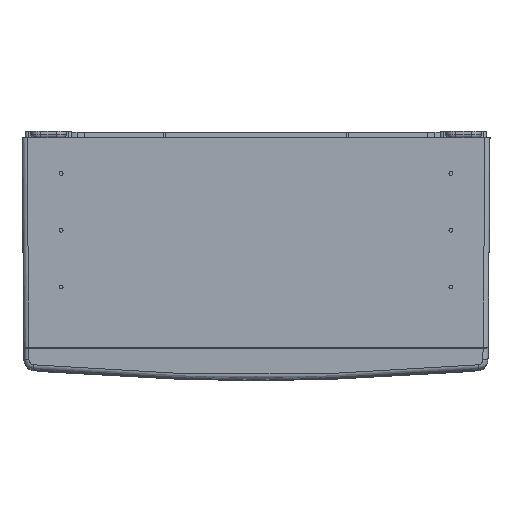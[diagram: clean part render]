
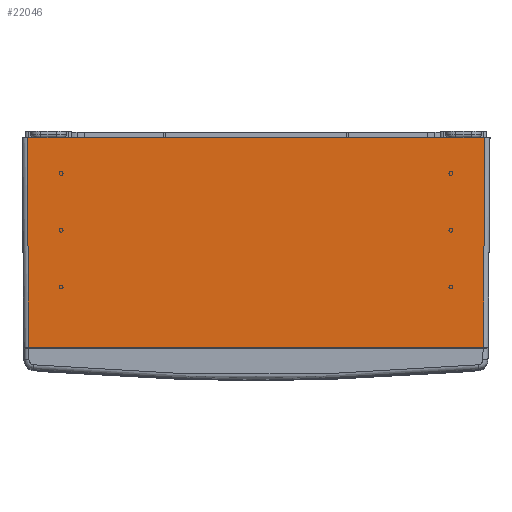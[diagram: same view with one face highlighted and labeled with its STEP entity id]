
A CAD part, top view. The second image highlights one B-rep face of the part: STEP entity #22046.
In plain terms, the highlighted planar face has unit normal (0, -0.009, 1).
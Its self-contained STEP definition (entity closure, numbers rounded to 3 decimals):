
#22046=ADVANCED_FACE('',(#28045),#24900,.T.);
#24900=PLANE('',#85764);
#28045=FACE_OUTER_BOUND('',#32438,.T.);
#32438=EDGE_LOOP('',(#46051,#46052,#46053,#46054));
#46051=ORIENTED_EDGE('',*,*,#66103,.F.);
#46052=ORIENTED_EDGE('',*,*,#66104,.T.);
#46053=ORIENTED_EDGE('',*,*,#66105,.T.);
#46054=ORIENTED_EDGE('',*,*,#66099,.T.);
#57690=VERTEX_POINT('',#135581);
#57691=VERTEX_POINT('',#135582);
#57694=VERTEX_POINT('',#135590);
#57695=VERTEX_POINT('',#135592);
#66099=EDGE_CURVE('',#57690,#57691,#73086,.T.);
#66103=EDGE_CURVE('',#57694,#57691,#73088,.T.);
#66104=EDGE_CURVE('',#57694,#57695,#73089,.T.);
#66105=EDGE_CURVE('',#57695,#57690,#73090,.T.);
#73086=LINE('',#135580,#78910);
#73088=LINE('',#135589,#78912);
#73089=LINE('',#135591,#78913);
#73090=LINE('',#135593,#78914);
#78910=VECTOR('',#99803,1.);
#78912=VECTOR('',#99811,1.);
#78913=VECTOR('',#99812,1.);
#78914=VECTOR('',#99813,1.);
#85764=AXIS2_PLACEMENT_3D('',#135594,#99814,#99815);
#99803=DIRECTION('',(0.009,-1.,-0.009));
#99811=DIRECTION('',(-1.,0.,0.));
#99812=DIRECTION('',(0.009,1.,0.009));
#99813=DIRECTION('',(-1.,0.,0.));
#99814=DIRECTION('',(0.,-0.009,1.));
#99815=DIRECTION('',(0.,1.,0.009));
#135580=CARTESIAN_POINT('',(-226.75,116.725,602.475));
#135581=CARTESIAN_POINT('',(-226.75,116.725,602.475));
#135582=CARTESIAN_POINT('',(-224.939,-90.775,600.664));
#135589=CARTESIAN_POINT('',(-226.75,-90.775,600.664));
#135590=CARTESIAN_POINT('',(224.939,-90.775,600.664));
#135591=CARTESIAN_POINT('',(226.75,116.725,602.475));
#135592=CARTESIAN_POINT('',(226.75,116.725,602.475));
#135593=CARTESIAN_POINT('',(-226.75,116.725,602.475));
#135594=CARTESIAN_POINT('',(-226.75,116.725,602.475));
